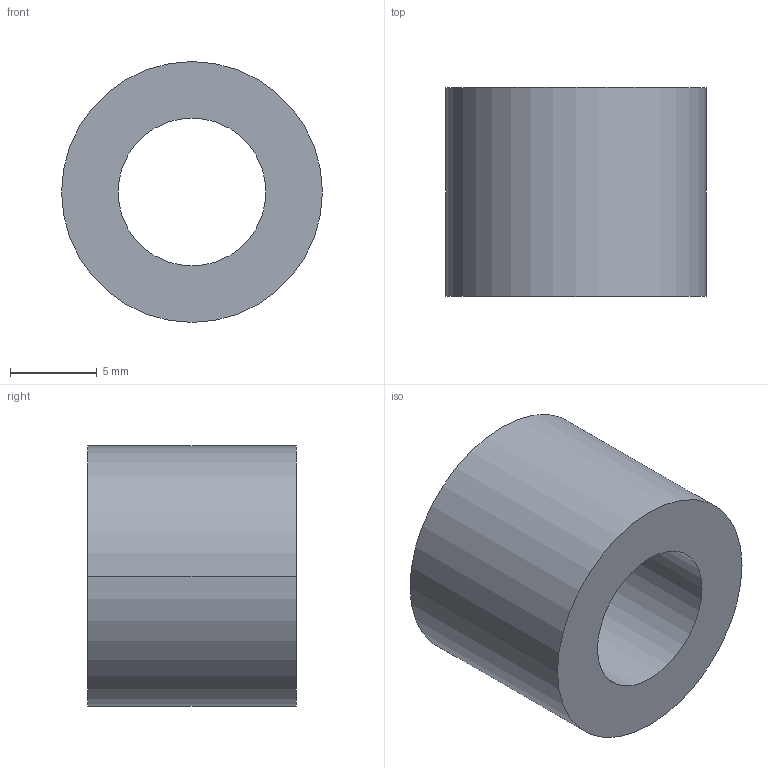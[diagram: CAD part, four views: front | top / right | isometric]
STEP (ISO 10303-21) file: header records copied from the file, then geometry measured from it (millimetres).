
FILE_DESCRIPTION (( 'STEP AP203' ), '1' );
FILE_NAME ('30800.WPP15E8.5.step', '2019-01-23T22:30:33', ( '' ), ( '' ), 'SwSTEP 2.0', 'SolidWorks 2017', '' );
FILE_SCHEMA (( 'CONFIG_CONTROL_DESIGN' ));
Length unit declared in the file: millimetre
Products named in the file (1): 30800.WPP15E8.5
Bounding box: 15 x 12 x 15 mm (x, y, z)
Volume: 1414.3 mm3; surface area: 1104.7 mm2
Topology: 1 solids, 1 shells, 8 faces, 16 edges, 10 vertices
Faces by surface type: cylinder 4, torus 2, plane 2
Entity records: 297 total; most frequent: DIRECTION 46, CARTESIAN_POINT 35, ORIENTED_EDGE 32, AXIS2_PLACEMENT_3D 21, EDGE_CURVE 16, CIRCLE 12, EDGE_LOOP 10, VERTEX_POINT 10
